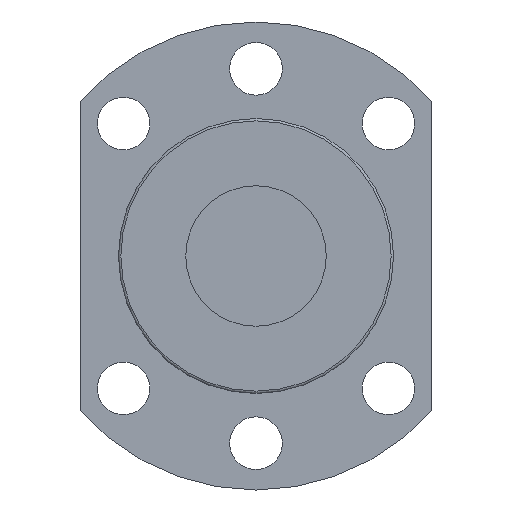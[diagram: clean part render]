
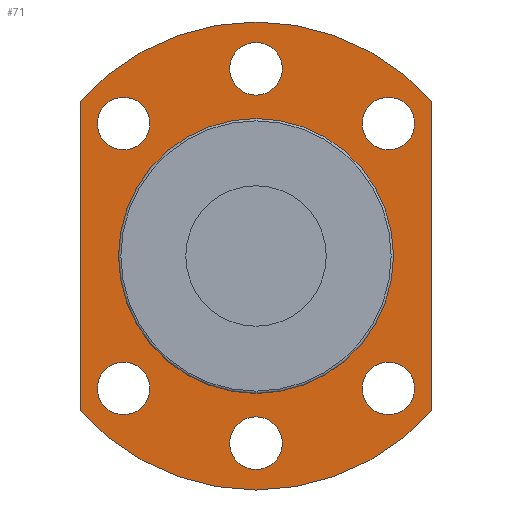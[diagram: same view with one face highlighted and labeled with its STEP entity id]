
A CAD part, left-side view. The second image highlights one B-rep face of the part: STEP entity #71.
In plain terms, the highlighted planar face has unit normal (-1, 0, 0).
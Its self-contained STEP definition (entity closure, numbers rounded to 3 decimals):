
#71=ADVANCED_FACE('',(#128,#129,#130,#131,#132,#133,#134,#135),#103,.F.);
#103=PLANE('',#480);
#112=LINE('',#700,#120);
#113=LINE('',#705,#121);
#120=VECTOR('',#555,1.);
#121=VECTOR('',#558,1.);
#128=FACE_BOUND('',#192,.T.);
#129=FACE_BOUND('',#193,.T.);
#130=FACE_BOUND('',#194,.T.);
#131=FACE_BOUND('',#195,.T.);
#132=FACE_BOUND('',#196,.T.);
#133=FACE_BOUND('',#197,.T.);
#134=FACE_BOUND('',#198,.T.);
#135=FACE_BOUND('',#199,.T.);
#192=EDGE_LOOP('',(#262));
#193=EDGE_LOOP('',(#263));
#194=EDGE_LOOP('',(#264));
#195=EDGE_LOOP('',(#265));
#196=EDGE_LOOP('',(#266));
#197=EDGE_LOOP('',(#267));
#198=EDGE_LOOP('',(#268));
#199=EDGE_LOOP('',(#269,#270,#271,#272));
#262=ORIENTED_EDGE('',*,*,#390,.T.);
#263=ORIENTED_EDGE('',*,*,#391,.T.);
#264=ORIENTED_EDGE('',*,*,#392,.T.);
#265=ORIENTED_EDGE('',*,*,#393,.T.);
#266=ORIENTED_EDGE('',*,*,#394,.T.);
#267=ORIENTED_EDGE('',*,*,#395,.T.);
#268=ORIENTED_EDGE('',*,*,#396,.T.);
#269=ORIENTED_EDGE('',*,*,#397,.F.);
#270=ORIENTED_EDGE('',*,*,#398,.T.);
#271=ORIENTED_EDGE('',*,*,#399,.T.);
#272=ORIENTED_EDGE('',*,*,#400,.T.);
#350=VERTEX_POINT('',#687);
#351=VERTEX_POINT('',#689);
#352=VERTEX_POINT('',#691);
#353=VERTEX_POINT('',#693);
#354=VERTEX_POINT('',#695);
#355=VERTEX_POINT('',#697);
#356=VERTEX_POINT('',#699);
#357=VERTEX_POINT('',#701);
#358=VERTEX_POINT('',#702);
#359=VERTEX_POINT('',#704);
#360=VERTEX_POINT('',#706);
#390=EDGE_CURVE('',#350,#350,#434,.T.);
#391=EDGE_CURVE('',#351,#351,#435,.T.);
#392=EDGE_CURVE('',#352,#352,#436,.T.);
#393=EDGE_CURVE('',#353,#353,#437,.T.);
#394=EDGE_CURVE('',#354,#354,#438,.T.);
#395=EDGE_CURVE('',#355,#355,#439,.T.);
#396=EDGE_CURVE('',#356,#356,#440,.T.);
#397=EDGE_CURVE('',#357,#358,#112,.T.);
#398=EDGE_CURVE('',#357,#359,#441,.T.);
#399=EDGE_CURVE('',#359,#360,#113,.T.);
#400=EDGE_CURVE('',#360,#358,#442,.T.);
#434=CIRCLE('',#471,11.55);
#435=CIRCLE('',#472,2.25);
#436=CIRCLE('',#473,2.25);
#437=CIRCLE('',#474,2.25);
#438=CIRCLE('',#475,2.25);
#439=CIRCLE('',#476,2.25);
#440=CIRCLE('',#477,2.25);
#441=CIRCLE('',#478,20.);
#442=CIRCLE('',#479,20.);
#471=AXIS2_PLACEMENT_3D('',#686,#541,#542);
#472=AXIS2_PLACEMENT_3D('',#688,#543,#544);
#473=AXIS2_PLACEMENT_3D('',#690,#545,#546);
#474=AXIS2_PLACEMENT_3D('',#692,#547,#548);
#475=AXIS2_PLACEMENT_3D('',#694,#549,#550);
#476=AXIS2_PLACEMENT_3D('',#696,#551,#552);
#477=AXIS2_PLACEMENT_3D('',#698,#553,#554);
#478=AXIS2_PLACEMENT_3D('',#703,#556,#557);
#479=AXIS2_PLACEMENT_3D('',#707,#559,#560);
#480=AXIS2_PLACEMENT_3D('',#708,#561,#562);
#541=DIRECTION('',(1.,0.,0.));
#542=DIRECTION('',(0.,0.,-1.));
#543=DIRECTION('',(1.,0.,0.));
#544=DIRECTION('',(0.,0.,-1.));
#545=DIRECTION('',(1.,0.,0.));
#546=DIRECTION('',(0.,0.,-1.));
#547=DIRECTION('',(1.,0.,0.));
#548=DIRECTION('',(0.,0.,-1.));
#549=DIRECTION('',(1.,0.,0.));
#550=DIRECTION('',(0.,0.,-1.));
#551=DIRECTION('',(1.,0.,0.));
#552=DIRECTION('',(0.,0.,-1.));
#553=DIRECTION('',(1.,0.,0.));
#554=DIRECTION('',(0.,0.,-1.));
#555=DIRECTION('',(0.,0.,1.));
#556=DIRECTION('',(-1.,0.,0.));
#557=DIRECTION('',(0.,0.,1.));
#558=DIRECTION('',(0.,0.,1.));
#559=DIRECTION('',(-1.,0.,0.));
#560=DIRECTION('',(0.,0.,1.));
#561=DIRECTION('',(1.,0.,0.));
#562=DIRECTION('',(0.,0.,-1.));
#686=CARTESIAN_POINT('',(-24.,0.,0.));
#687=CARTESIAN_POINT('',(-24.,0.,-11.55));
#688=CARTESIAN_POINT('',(-24.,-11.314,11.314));
#689=CARTESIAN_POINT('',(-24.,-11.314,9.064));
#690=CARTESIAN_POINT('',(-24.,0.,-16.));
#691=CARTESIAN_POINT('',(-24.,0.,-18.25));
#692=CARTESIAN_POINT('',(-24.,0.,16.));
#693=CARTESIAN_POINT('',(-24.,0.,13.75));
#694=CARTESIAN_POINT('',(-24.,11.314,-11.314));
#695=CARTESIAN_POINT('',(-24.,11.314,-13.564));
#696=CARTESIAN_POINT('',(-24.,-11.314,-11.314));
#697=CARTESIAN_POINT('',(-24.,-11.314,-13.564));
#698=CARTESIAN_POINT('',(-24.,11.314,11.314));
#699=CARTESIAN_POINT('',(-24.,11.314,9.064));
#700=CARTESIAN_POINT('',(-24.,15.,20.));
#701=CARTESIAN_POINT('',(-24.,15.,-13.229));
#702=CARTESIAN_POINT('',(-24.,15.,13.229));
#703=CARTESIAN_POINT('',(-24.,0.,0.));
#704=CARTESIAN_POINT('',(-24.,-15.,-13.229));
#705=CARTESIAN_POINT('',(-24.,-15.,20.));
#706=CARTESIAN_POINT('',(-24.,-15.,13.229));
#707=CARTESIAN_POINT('',(-24.,0.,0.));
#708=CARTESIAN_POINT('',(-24.,0.,20.));
